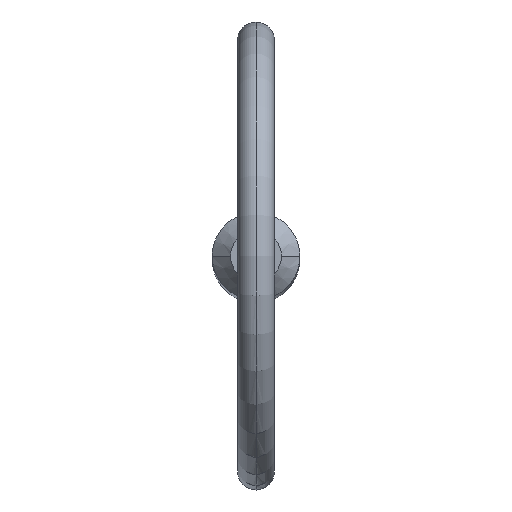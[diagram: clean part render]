
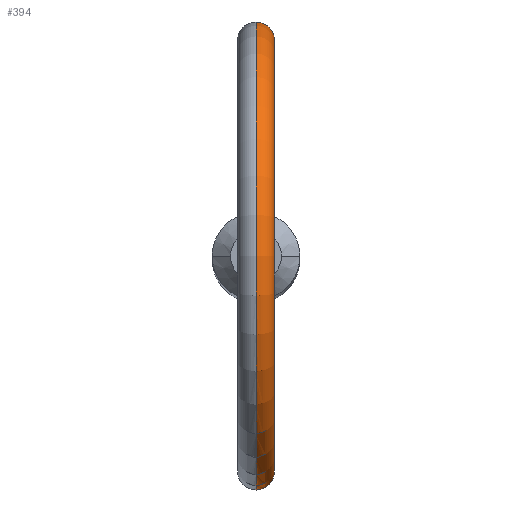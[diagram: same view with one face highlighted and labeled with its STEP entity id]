
A CAD part, top view. The second image highlights one B-rep face of the part: STEP entity #394.
In plain terms, the highlighted toroidal (fillet/blend) face has major radius 11.7 mm and minor radius 1 mm.
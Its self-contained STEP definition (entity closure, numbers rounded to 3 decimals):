
#13 = DIRECTION ( 'NONE',  ( 0., 0., -1. ) ) ;
#22 = B_SPLINE_CURVE_WITH_KNOTS ( 'NONE', 3,
 ( #238, #420, #446, #232, #266, #255, #157, #298, #379, #374, #230, #118, #77, #120, #377, #227, #332, #111 ),
 .UNSPECIFIED., .F., .F.,
 ( 4, 2, 2, 2, 2, 2, 2, 2, 4 ),
 ( 0.003, 0.003, 0.003, 0.004, 0.004, 0.005, 0.005, 0.005, 0.006 ),
 .UNSPECIFIED. ) ;
#23 = AXIS2_PLACEMENT_3D ( 'NONE', #229, #86, #13 ) ;
#29 = CARTESIAN_POINT ( 'NONE',  ( 0.614, 2.301, 80.745 ) ) ;
#56 = EDGE_CURVE ( 'NONE', #367, #187, #22, .T. ) ;
#63 = CARTESIAN_POINT ( 'NONE',  ( 0., 0., 91.4 ) ) ;
#67 = CARTESIAN_POINT ( 'NONE',  ( 0.134, 2.38, 80.968 ) ) ;
#77 = CARTESIAN_POINT ( 'NONE',  ( 0.811, -2.24, 79.306 ) ) ;
#83 = CARTESIAN_POINT ( 'NONE',  ( 0., -2.38, 78.925 ) ) ;
#86 = DIRECTION ( 'NONE',  ( 1., 0., 0. ) ) ;
#93 = CARTESIAN_POINT ( 'NONE',  ( 0., 0., 91.4 ) ) ;
#96 = CARTESIAN_POINT ( 'NONE',  ( 1.003, 2.158, 79.797 ) ) ;
#100 = CARTESIAN_POINT ( 'NONE',  ( 0.811, 2.24, 79.306 ) ) ;
#102 = CARTESIAN_POINT ( 'NONE',  ( 0.509, 2.328, 80.824 ) ) ;
#111 = CARTESIAN_POINT ( 'NONE',  ( 0., -2.38, 78.925 ) ) ;
#118 = CARTESIAN_POINT ( 'NONE',  ( 0.885, -2.21, 79.417 ) ) ;
#120 = CARTESIAN_POINT ( 'NONE',  ( 0.625, -2.299, 79.121 ) ) ;
#123 = VERTEX_POINT ( 'NONE', #452 ) ;
#142 = DIRECTION ( 'NONE',  ( 1., 0., 0. ) ) ;
#143 = CARTESIAN_POINT ( 'NONE',  ( 0., 2.38, 78.925 ) ) ;
#144 = CARTESIAN_POINT ( 'NONE',  ( 0., 2.38, 80.968 ) ) ;
#145 = VERTEX_POINT ( 'NONE', #191 ) ;
#157 = CARTESIAN_POINT ( 'NONE',  ( 0.865, -2.218, 80.44 ) ) ;
#166 = DIRECTION ( 'NONE',  ( 1., 0., 0. ) ) ;
#170 = AXIS2_PLACEMENT_3D ( 'NONE', #93, #166, #275 ) ;
#173 = EDGE_LOOP ( 'NONE', ( #315, #330, #233, #361 ) ) ;
#180 = EDGE_CURVE ( 'NONE', #123, #187, #327, .T. ) ;
#181 = CARTESIAN_POINT ( 'NONE',  ( 0.793, 2.246, 80.553 ) ) ;
#187 = VERTEX_POINT ( 'NONE', #83 ) ;
#191 = CARTESIAN_POINT ( 'NONE',  ( 0., 2.38, 80.968 ) ) ;
#227 = CARTESIAN_POINT ( 'NONE',  ( 0.268, -2.368, 78.951 ) ) ;
#229 = CARTESIAN_POINT ( 'NONE',  ( 0., 0., 91.4 ) ) ;
#230 = CARTESIAN_POINT ( 'NONE',  ( 0.981, -2.169, 79.664 ) ) ;
#232 = CARTESIAN_POINT ( 'NONE',  ( 0.508, -2.328, 80.824 ) ) ;
#233 = ORIENTED_EDGE ( 'NONE', *, *, #56, .F. ) ;
#238 = CARTESIAN_POINT ( 'NONE',  ( 0., -2.38, 80.968 ) ) ;
#240 = B_SPLINE_CURVE_WITH_KNOTS ( 'NONE', 3,
 ( #143, #358, #468, #437, #281, #100, #469, #466, #96, #356, #248, #397, #181, #29, #102, #362, #67, #144 ),
 .UNSPECIFIED., .F., .F.,
 ( 4, 2, 2, 2, 2, 2, 2, 2, 4 ),
 ( 0.001, 0.001, 0.001, 0.002, 0.002, 0.003, 0.003, 0.003, 0.004 ),
 .UNSPECIFIED. ) ;
#248 = CARTESIAN_POINT ( 'NONE',  ( 0.966, 2.176, 80.197 ) ) ;
#250 = TOROIDAL_SURFACE ( 'NONE', #465, 11.7, 1. ) ;
#255 = CARTESIAN_POINT ( 'NONE',  ( 0.793, -2.246, 80.552 ) ) ;
#256 = FACE_OUTER_BOUND ( 'NONE', #173, .T. ) ;
#266 = CARTESIAN_POINT ( 'NONE',  ( 0.615, -2.301, 80.744 ) ) ;
#275 = DIRECTION ( 'NONE',  ( 0., 0., -1. ) ) ;
#281 = CARTESIAN_POINT ( 'NONE',  ( 0.625, 2.299, 79.121 ) ) ;
#286 = DIRECTION ( 'NONE',  ( 0., 0., -1. ) ) ;
#298 = CARTESIAN_POINT ( 'NONE',  ( 0.966, -2.176, 80.197 ) ) ;
#301 = EDGE_CURVE ( 'NONE', #145, #367, #309, .T. ) ;
#309 = CIRCLE ( 'NONE', #170, 10.7 ) ;
#315 = ORIENTED_EDGE ( 'NONE', *, *, #407, .F. ) ;
#323 = CARTESIAN_POINT ( 'NONE',  ( 0., -2.38, 80.968 ) ) ;
#327 = CIRCLE ( 'NONE', #23, 12.7 ) ;
#330 = ORIENTED_EDGE ( 'NONE', *, *, #180, .T. ) ;
#332 = CARTESIAN_POINT ( 'NONE',  ( 0.133, -2.38, 78.925 ) ) ;
#356 = CARTESIAN_POINT ( 'NONE',  ( 0.996, 2.162, 80.064 ) ) ;
#358 = CARTESIAN_POINT ( 'NONE',  ( 0.133, 2.38, 78.925 ) ) ;
#361 = ORIENTED_EDGE ( 'NONE', *, *, #301, .F. ) ;
#362 = CARTESIAN_POINT ( 'NONE',  ( 0.267, 2.368, 80.937 ) ) ;
#367 = VERTEX_POINT ( 'NONE', #323 ) ;
#374 = CARTESIAN_POINT ( 'NONE',  ( 1.003, -2.158, 79.799 ) ) ;
#377 = CARTESIAN_POINT ( 'NONE',  ( 0.513, -2.327, 79.048 ) ) ;
#379 = CARTESIAN_POINT ( 'NONE',  ( 0.996, -2.162, 80.064 ) ) ;
#394 = ADVANCED_FACE ( 'NONE', ( #256 ), #250, .T. ) ;
#397 = CARTESIAN_POINT ( 'NONE',  ( 0.864, 2.218, 80.441 ) ) ;
#407 = EDGE_CURVE ( 'NONE', #123, #145, #240, .T. ) ;
#420 = CARTESIAN_POINT ( 'NONE',  ( 0.134, -2.38, 80.968 ) ) ;
#437 = CARTESIAN_POINT ( 'NONE',  ( 0.513, 2.327, 79.049 ) ) ;
#446 = CARTESIAN_POINT ( 'NONE',  ( 0.268, -2.368, 80.937 ) ) ;
#452 = CARTESIAN_POINT ( 'NONE',  ( 0., 2.38, 78.925 ) ) ;
#465 = AXIS2_PLACEMENT_3D ( 'NONE', #63, #142, #286 ) ;
#466 = CARTESIAN_POINT ( 'NONE',  ( 0.981, 2.169, 79.662 ) ) ;
#468 = CARTESIAN_POINT ( 'NONE',  ( 0.267, 2.368, 78.95 ) ) ;
#469 = CARTESIAN_POINT ( 'NONE',  ( 0.884, 2.21, 79.417 ) ) ;
